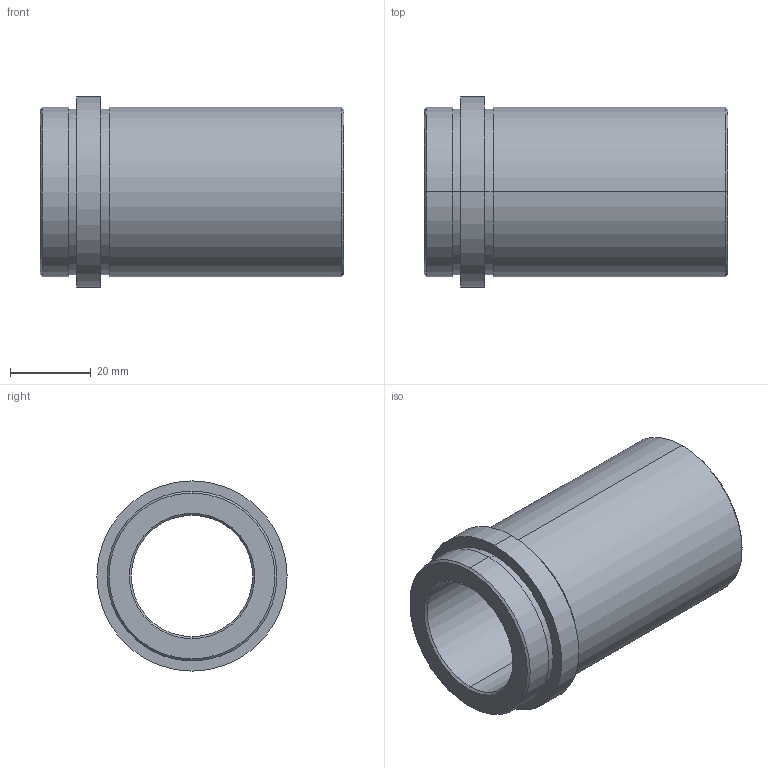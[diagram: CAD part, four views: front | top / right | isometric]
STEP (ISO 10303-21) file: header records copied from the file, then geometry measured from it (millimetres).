
FILE_DESCRIPTION( ( 'STEP AP203' ), '1' );
FILE_NAME( 'C:/Projects/D21 - 30x66.step', '2002-12-31T22:57:31', ( ' ' ), ( ' ' ), 'XStep 1.0', ' ', ' ' );
FILE_SCHEMA( ( 'CONFIG_CONTROL_DESIGN' ) );
Length unit declared in the file: metre
Products named in the file (1): 1
Bounding box: 75 x 47 x 47 mm (x, y, z)
Volume: 52673.5 mm3; surface area: 19230.7 mm2
Topology: 1 solids, 1 shells, 26 faces, 52 edges, 32 vertices
Faces by surface type: revolution 20, bspline 6
Entity records: 773 total; most frequent: CARTESIAN_POINT 169, DIRECTION 106, ORIENTED_EDGE 104, EDGE_CURVE 52, AXIS2_PLACEMENT_3D 33, EDGE_LOOP 32, VERTEX_POINT 32, CIRCLE 32
